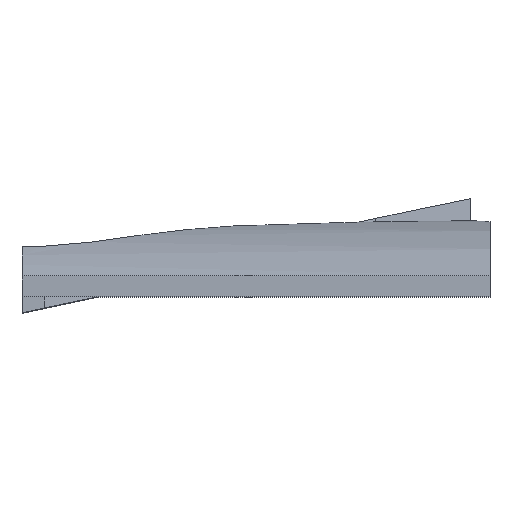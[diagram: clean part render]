
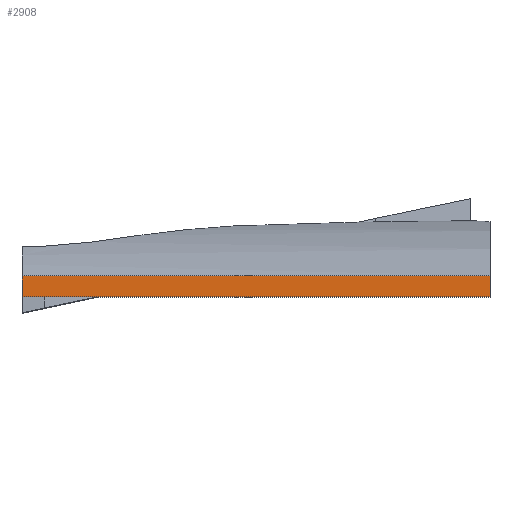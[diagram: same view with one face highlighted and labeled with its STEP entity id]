
A CAD part, top view. The second image highlights one B-rep face of the part: STEP entity #2908.
In plain terms, the highlighted planar face has unit normal (0, 0, 1).
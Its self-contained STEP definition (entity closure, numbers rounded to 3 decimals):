
#421 = CYLINDRICAL_SURFACE('',#422,17.95);
#422 = AXIS2_PLACEMENT_3D('',#423,#424,#425);
#423 = CARTESIAN_POINT('',(294.,0.,0.));
#424 = DIRECTION('',(1.,0.,0.));
#425 = DIRECTION('',(-0.,0.,1.));
#655 = PLANE('',#656);
#656 = AXIS2_PLACEMENT_3D('',#657,#658,#659);
#657 = CARTESIAN_POINT('',(299.3,-30.,-30.));
#658 = DIRECTION('',(1.,0.,-0.));
#659 = DIRECTION('',(0.,0.,1.));
#1145 = VERTEX_POINT('',#1146);
#1146 = CARTESIAN_POINT('',(299.3,15.979,10.));
#1161 = CYLINDRICAL_SURFACE('',#1162,18.85);
#1162 = AXIS2_PLACEMENT_3D('',#1163,#1164,#1165);
#1163 = CARTESIAN_POINT('',(295.,0.,0.));
#1164 = DIRECTION('',(1.,0.,0.));
#1165 = DIRECTION('',(-0.,0.,1.));
#1173 = EDGE_CURVE('',#1174,#1145,#1176,.T.);
#1174 = VERTEX_POINT('',#1175);
#1175 = CARTESIAN_POINT('',(299.3,14.906,10.));
#1176 = SURFACE_CURVE('',#1177,(#1181,#1187),.PCURVE_S1.);
#1177 = LINE('',#1178,#1179);
#1178 = CARTESIAN_POINT('',(299.3,-7.668,10.));
#1179 = VECTOR('',#1180,1.);
#1180 = DIRECTION('',(-0.,1.,0.));
#1181 = PCURVE('',#655,#1182);
#1182 = DEFINITIONAL_REPRESENTATION('',(#1183),#1186);
#1183 = B_SPLINE_CURVE_WITH_KNOTS('',1,(#1184,#1185),.UNSPECIFIED.,.F.,
  .F.,(2,2),(22.575,23.647),.PIECEWISE_BEZIER_KNOTS.);
#1184 = CARTESIAN_POINT('',(40.,-44.906));
#1185 = CARTESIAN_POINT('',(40.,-45.979));
#1186 = ( GEOMETRIC_REPRESENTATION_CONTEXT(2) 
PARAMETRIC_REPRESENTATION_CONTEXT() REPRESENTATION_CONTEXT('2D SPACE',''
  ) );
#1187 = PCURVE('',#1188,#1193);
#1188 = PLANE('',#1189);
#1189 = AXIS2_PLACEMENT_3D('',#1190,#1191,#1192);
#1190 = CARTESIAN_POINT('',(295.,14.664,10.));
#1191 = DIRECTION('',(0.,0.,1.));
#1192 = DIRECTION('',(1.,0.,-0.));
#1193 = DEFINITIONAL_REPRESENTATION('',(#1194),#1197);
#1194 = B_SPLINE_CURVE_WITH_KNOTS('',1,(#1195,#1196),.UNSPECIFIED.,.F.,
  .F.,(2,2),(22.575,23.647),.PIECEWISE_BEZIER_KNOTS.);
#1195 = CARTESIAN_POINT('',(4.3,0.243));
#1196 = CARTESIAN_POINT('',(4.3,1.315));
#1197 = ( GEOMETRIC_REPRESENTATION_CONTEXT(2) 
PARAMETRIC_REPRESENTATION_CONTEXT() REPRESENTATION_CONTEXT('2D SPACE',''
  ) );
#1720 = VERTEX_POINT('',#1721);
#1721 = CARTESIAN_POINT('',(323.464,14.906,10.)
  );
#1736 = PLANE('',#1737);
#1737 = AXIS2_PLACEMENT_3D('',#1738,#1739,#1740);
#1738 = CARTESIAN_POINT('',(323.464,-40.,-40.));
#1739 = DIRECTION('',(1.,0.,-0.));
#1740 = DIRECTION('',(0.,0.,1.));
#2124 = EDGE_CURVE('',#1174,#1720,#2125,.T.);
#2125 = SURFACE_CURVE('',#2126,(#2130,#2136),.PCURVE_S1.);
#2126 = LINE('',#2127,#2128);
#2127 = CARTESIAN_POINT('',(294.,14.906,10.));
#2128 = VECTOR('',#2129,1.);
#2129 = DIRECTION('',(1.,0.,0.));
#2130 = PCURVE('',#421,#2131);
#2131 = DEFINITIONAL_REPRESENTATION('',(#2132),#2135);
#2132 = B_SPLINE_CURVE_WITH_KNOTS('',1,(#2133,#2134),.UNSPECIFIED.,.F.,
  .F.,(2,2),(1.,31.464),.PIECEWISE_BEZIER_KNOTS.);
#2133 = CARTESIAN_POINT('',(5.303,1.));
#2134 = CARTESIAN_POINT('',(5.303,31.464));
#2135 = ( GEOMETRIC_REPRESENTATION_CONTEXT(2) 
PARAMETRIC_REPRESENTATION_CONTEXT() REPRESENTATION_CONTEXT('2D SPACE',''
  ) );
#2136 = PCURVE('',#1188,#2137);
#2137 = DEFINITIONAL_REPRESENTATION('',(#2138),#2141);
#2138 = B_SPLINE_CURVE_WITH_KNOTS('',1,(#2139,#2140),.UNSPECIFIED.,.F.,
  .F.,(2,2),(1.,31.464),.PIECEWISE_BEZIER_KNOTS.);
#2139 = CARTESIAN_POINT('',(0.,0.243));
#2140 = CARTESIAN_POINT('',(30.464,0.243));
#2141 = ( GEOMETRIC_REPRESENTATION_CONTEXT(2) 
PARAMETRIC_REPRESENTATION_CONTEXT() REPRESENTATION_CONTEXT('2D SPACE',''
  ) );
#2908 = ADVANCED_FACE('',(#2909),#1188,.T.);
#2909 = FACE_BOUND('',#2910,.T.);
#2910 = EDGE_LOOP('',(#2911,#2912,#2913,#2934));
#2911 = ORIENTED_EDGE('',*,*,#1173,.F.);
#2912 = ORIENTED_EDGE('',*,*,#2124,.T.);
#2913 = ORIENTED_EDGE('',*,*,#2914,.T.);
#2914 = EDGE_CURVE('',#1720,#2915,#2917,.T.);
#2915 = VERTEX_POINT('',#2916);
#2916 = CARTESIAN_POINT('',(323.464,15.979,10.)
  );
#2917 = SURFACE_CURVE('',#2918,(#2922,#2928),.PCURVE_S1.);
#2918 = LINE('',#2919,#2920);
#2919 = CARTESIAN_POINT('',(323.464,-12.668,10.)
  );
#2920 = VECTOR('',#2921,1.);
#2921 = DIRECTION('',(-0.,1.,0.));
#2922 = PCURVE('',#1188,#2923);
#2923 = DEFINITIONAL_REPRESENTATION('',(#2924),#2927);
#2924 = B_SPLINE_CURVE_WITH_KNOTS('',1,(#2925,#2926),.UNSPECIFIED.,.F.,
  .F.,(2,2),(27.575,28.647),.PIECEWISE_BEZIER_KNOTS.);
#2925 = CARTESIAN_POINT('',(28.464,0.243));
#2926 = CARTESIAN_POINT('',(28.464,1.315));
#2927 = ( GEOMETRIC_REPRESENTATION_CONTEXT(2) 
PARAMETRIC_REPRESENTATION_CONTEXT() REPRESENTATION_CONTEXT('2D SPACE',''
  ) );
#2928 = PCURVE('',#1736,#2929);
#2929 = DEFINITIONAL_REPRESENTATION('',(#2930),#2933);
#2930 = B_SPLINE_CURVE_WITH_KNOTS('',1,(#2931,#2932),.UNSPECIFIED.,.F.,
  .F.,(2,2),(27.575,28.647),.PIECEWISE_BEZIER_KNOTS.);
#2931 = CARTESIAN_POINT('',(50.,-54.906));
#2932 = CARTESIAN_POINT('',(50.,-55.979));
#2933 = ( GEOMETRIC_REPRESENTATION_CONTEXT(2) 
PARAMETRIC_REPRESENTATION_CONTEXT() REPRESENTATION_CONTEXT('2D SPACE',''
  ) );
#2934 = ORIENTED_EDGE('',*,*,#2935,.F.);
#2935 = EDGE_CURVE('',#1145,#2915,#2936,.T.);
#2936 = SURFACE_CURVE('',#2937,(#2941,#2947),.PCURVE_S1.);
#2937 = LINE('',#2938,#2939);
#2938 = CARTESIAN_POINT('',(295.,15.979,10.));
#2939 = VECTOR('',#2940,1.);
#2940 = DIRECTION('',(1.,0.,0.));
#2941 = PCURVE('',#1188,#2942);
#2942 = DEFINITIONAL_REPRESENTATION('',(#2943),#2946);
#2943 = B_SPLINE_CURVE_WITH_KNOTS('',1,(#2944,#2945),.UNSPECIFIED.,.F.,
  .F.,(2,2),(0.,30.464),
  .PIECEWISE_BEZIER_KNOTS.);
#2944 = CARTESIAN_POINT('',(0.,1.315));
#2945 = CARTESIAN_POINT('',(30.464,1.315));
#2946 = ( GEOMETRIC_REPRESENTATION_CONTEXT(2) 
PARAMETRIC_REPRESENTATION_CONTEXT() REPRESENTATION_CONTEXT('2D SPACE',''
  ) );
#2947 = PCURVE('',#1161,#2948);
#2948 = DEFINITIONAL_REPRESENTATION('',(#2949),#2952);
#2949 = B_SPLINE_CURVE_WITH_KNOTS('',1,(#2950,#2951),.UNSPECIFIED.,.F.,
  .F.,(2,2),(0.,30.464),
  .PIECEWISE_BEZIER_KNOTS.);
#2950 = CARTESIAN_POINT('',(5.272,0.));
#2951 = CARTESIAN_POINT('',(5.272,30.464));
#2952 = ( GEOMETRIC_REPRESENTATION_CONTEXT(2) 
PARAMETRIC_REPRESENTATION_CONTEXT() REPRESENTATION_CONTEXT('2D SPACE',''
  ) );
